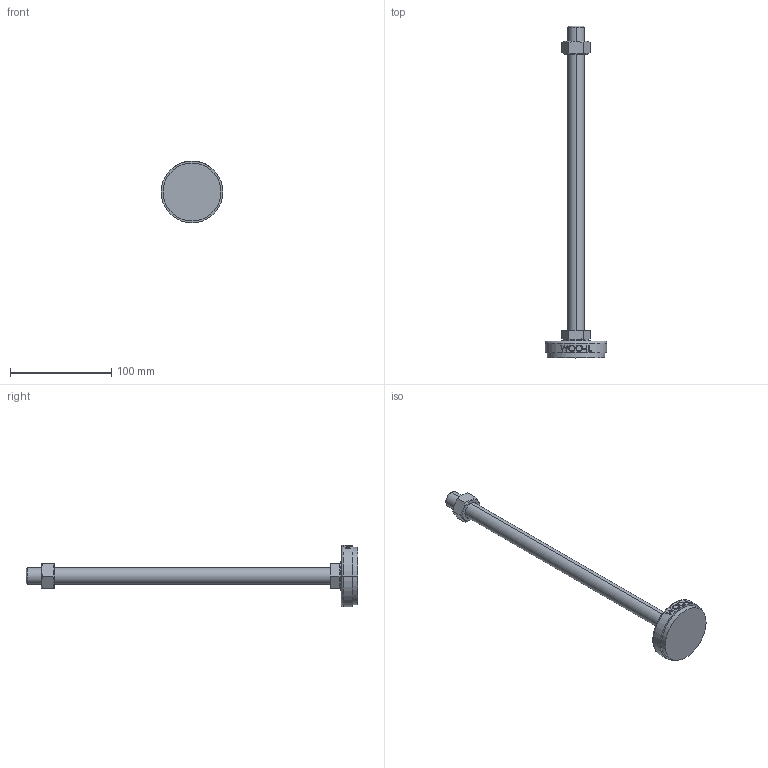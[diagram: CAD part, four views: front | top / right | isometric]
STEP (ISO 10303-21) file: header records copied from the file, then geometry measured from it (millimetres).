
FILE_DESCRIPTION (( 'STEP AP214' ), '1' );
FILE_NAME ('NS61-M16-300.step', '2021-01-11T05:46:10', ( '' ), ( '' ), 'SwSTEP 2.0', 'SolidWorks 2019', '' );
FILE_SCHEMA (( 'AUTOMOTIVE_DESIGN' ));
Length unit declared in the file: millimetre
Products named in the file (2): NS61-M16-300
Bounding box: 61 x 327.5 x 61 mm (x, y, z)
Volume: 115830.1 mm3; surface area: 27934 mm2
Topology: 3 solids, 3 shells, 96 faces, 223 edges, 144 vertices
Faces by surface type: plane 48, cylinder 18, bspline 16, cone 12, torus 2
Entity records: 4252 total; most frequent: CARTESIAN_POINT 2127, ORIENTED_EDGE 446, DIRECTION 381, EDGE_CURVE 223, VERTEX_POINT 144, AXIS2_PLACEMENT_3D 142, EDGE_LOOP 109, LINE 97
